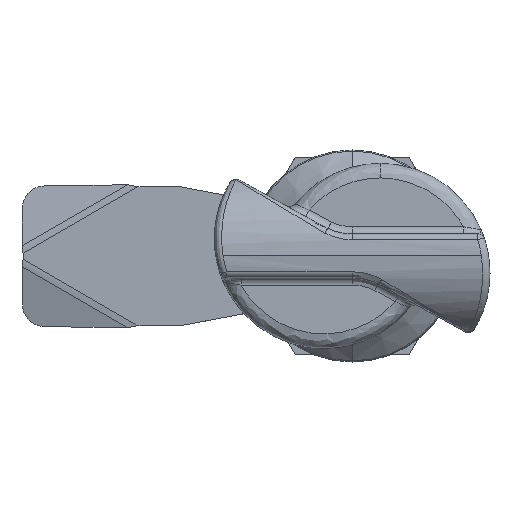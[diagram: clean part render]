
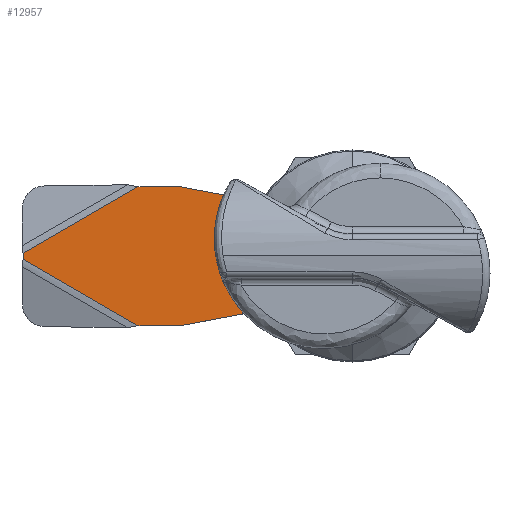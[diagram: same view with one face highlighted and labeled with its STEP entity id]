
A CAD part, top view. The second image highlights one B-rep face of the part: STEP entity #12957.
In plain terms, the highlighted planar face has unit normal (0, 0, 1).
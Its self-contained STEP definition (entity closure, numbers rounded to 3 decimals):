
#126 = DIRECTION ( 'NONE',  ( 0., -1., 0. ) ) ;
#141 = VERTEX_POINT ( 'NONE', #4286 ) ;
#182 = CARTESIAN_POINT ( 'NONE',  ( 29.295, 9.5, 3. ) ) ;
#248 = CIRCLE ( 'NONE', #2072, 8.5 ) ;
#284 = ORIENTED_EDGE ( 'NONE', *, *, #7848, .T. ) ;
#371 = EDGE_CURVE ( 'NONE', #8380, #987, #4857, .T. ) ;
#464 = ORIENTED_EDGE ( 'NONE', *, *, #1931, .T. ) ;
#688 = DIRECTION ( 'NONE',  ( 1., 0., 0. ) ) ;
#759 = FACE_BOUND ( 'NONE', #2884, .T. ) ;
#830 = CARTESIAN_POINT ( 'NONE',  ( 23.5, 9.5, 3. ) ) ;
#987 = VERTEX_POINT ( 'NONE', #9911 ) ;
#1129 = AXIS2_PLACEMENT_3D ( 'NONE', #7959, #7912, #7872 ) ;
#1231 = EDGE_LOOP ( 'NONE', ( #7009, #4759, #10121, #3452, #4829, #13849, #284, #464, #1614, #11706, #11364, #6966, #13770 ) ) ;
#1277 = CARTESIAN_POINT ( 'NONE',  ( 45., -0.433, 3. ) ) ;
#1300 = AXIS2_PLACEMENT_3D ( 'NONE', #3534, #2823, #4195 ) ;
#1413 = VERTEX_POINT ( 'NONE', #4600 ) ;
#1614 = ORIENTED_EDGE ( 'NONE', *, *, #9502, .T. ) ;
#1768 = DIRECTION ( 'NONE',  ( -1., 0., 0. ) ) ;
#1774 = CARTESIAN_POINT ( 'NONE',  ( 10.463, 7.043, 3. ) ) ;
#1782 = VECTOR ( 'NONE', #3214, 1000. ) ;
#1923 = VECTOR ( 'NONE', #5548, 1000. ) ;
#1931 = EDGE_CURVE ( 'NONE', #11809, #3948, #248, .T. ) ;
#2028 = CARTESIAN_POINT ( 'NONE',  ( 0., 0., 3. ) ) ;
#2072 = AXIS2_PLACEMENT_3D ( 'NONE', #2572, #2499, #2543 ) ;
#2186 = DIRECTION ( 'NONE',  ( -0.866, 0.5, 0. ) ) ;
#2499 = DIRECTION ( 'NONE',  ( 0., 0., 1. ) ) ;
#2543 = DIRECTION ( 'NONE',  ( 1., 0., 0. ) ) ;
#2556 = EDGE_CURVE ( 'NONE', #8041, #11493, #10054, .T. ) ;
#2572 = CARTESIAN_POINT ( 'NONE',  ( 0., 0., 3. ) ) ;
#2578 = VECTOR ( 'NONE', #7411, 1000. ) ;
#2621 = EDGE_CURVE ( 'NONE', #9183, #8488, #10029, .T. ) ;
#2737 = EDGE_CURVE ( 'NONE', #8314, #7477, #4735, .T. ) ;
#2823 = DIRECTION ( 'NONE',  ( 0., 0., -1. ) ) ;
#2884 = EDGE_LOOP ( 'NONE', ( #7242, #9962, #10377, #3717 ) ) ;
#3080 = DIRECTION ( 'NONE',  ( 1., 0., 0. ) ) ;
#3158 = EDGE_CURVE ( 'NONE', #8087, #8041, #6565, .T. ) ;
#3214 = DIRECTION ( 'NONE',  ( -0.987, 0.163, 0. ) ) ;
#3241 = CARTESIAN_POINT ( 'NONE',  ( 23.051, 13.105, 3. ) ) ;
#3287 = FACE_OUTER_BOUND ( 'NONE', #1231, .T. ) ;
#3415 = CIRCLE ( 'NONE', #6483, 8.5 ) ;
#3452 = ORIENTED_EDGE ( 'NONE', *, *, #3158, .T. ) ;
#3534 = CARTESIAN_POINT ( 'NONE',  ( 10., -9.5, 3. ) ) ;
#3717 = ORIENTED_EDGE ( 'NONE', *, *, #13270, .T. ) ;
#3782 = VECTOR ( 'NONE', #2186, 1000. ) ;
#3830 = CARTESIAN_POINT ( 'NONE',  ( 9.593, 7.033, 3. ) ) ;
#3948 = VERTEX_POINT ( 'NONE', #4501 ) ;
#4195 = DIRECTION ( 'NONE',  ( -1., 0., 0. ) ) ;
#4286 = CARTESIAN_POINT ( 'NONE',  ( 29.295, -9.5, 3. ) ) ;
#4333 = CARTESIAN_POINT ( 'NONE',  ( 42., -9.5, 3. ) ) ;
#4349 = CARTESIAN_POINT ( 'NONE',  ( 9.593, 7.033, 3. ) ) ;
#4355 = VECTOR ( 'NONE', #6671, 1000. ) ;
#4359 = EDGE_CURVE ( 'NONE', #8872, #11746, #9063, .T. ) ;
#4370 = CARTESIAN_POINT ( 'NONE',  ( 10.463, -7.043, 3. ) ) ;
#4382 = PLANE ( 'NONE',  #11718 ) ;
#4420 = VECTOR ( 'NONE', #9612, 1000. ) ;
#4449 = VECTOR ( 'NONE', #9240, 1000. ) ;
#4462 = LINE ( 'NONE', #3241, #3782 ) ;
#4501 = CARTESIAN_POINT ( 'NONE',  ( -8.5, 0., 3. ) ) ;
#4549 = CARTESIAN_POINT ( 'NONE',  ( -4.05, -4.05, 3. ) ) ;
#4600 = CARTESIAN_POINT ( 'NONE',  ( 4.05, -4.05, 3. ) ) ;
#4735 = LINE ( 'NONE', #7825, #4779 ) ;
#4759 = ORIENTED_EDGE ( 'NONE', *, *, #4359, .T. ) ;
#4779 = VECTOR ( 'NONE', #7857, 1000. ) ;
#4829 = ORIENTED_EDGE ( 'NONE', *, *, #2556, .T. ) ;
#4857 = LINE ( 'NONE', #4370, #4355 ) ;
#5373 = CARTESIAN_POINT ( 'NONE',  ( 10., -9.5, 3. ) ) ;
#5422 = DIRECTION ( 'NONE',  ( -1., 0., 0. ) ) ;
#5548 = DIRECTION ( 'NONE',  ( -1., 0., 0. ) ) ;
#5590 = EDGE_CURVE ( 'NONE', #7477, #8380, #9585, .T. ) ;
#6483 = AXIS2_PLACEMENT_3D ( 'NONE', #2028, #9426, #3080 ) ;
#6565 = LINE ( 'NONE', #12349, #6721 ) ;
#6633 = CIRCLE ( 'NONE', #1129, 2.5 ) ;
#6671 = DIRECTION ( 'NONE',  ( 0.983, -0.185, 0. ) ) ;
#6688 = LINE ( 'NONE', #4333, #2578 ) ;
#6721 = VECTOR ( 'NONE', #1768, 1000. ) ;
#6726 = VECTOR ( 'NONE', #688, 1000. ) ;
#6945 = CARTESIAN_POINT ( 'NONE',  ( -4.05, 4.05, 3. ) ) ;
#6956 = EDGE_CURVE ( 'NONE', #11493, #13853, #6633, .T. ) ;
#6966 = ORIENTED_EDGE ( 'NONE', *, *, #371, .T. ) ;
#7009 = ORIENTED_EDGE ( 'NONE', *, *, #12631, .F. ) ;
#7033 = CARTESIAN_POINT ( 'NONE',  ( 10., 4.05, 3. ) ) ;
#7242 = ORIENTED_EDGE ( 'NONE', *, *, #9348, .T. ) ;
#7411 = DIRECTION ( 'NONE',  ( 1., 0., 0. ) ) ;
#7477 = VERTEX_POINT ( 'NONE', #9011 ) ;
#7825 = CARTESIAN_POINT ( 'NONE',  ( 9.593, -7.033, 3. ) ) ;
#7848 = EDGE_CURVE ( 'NONE', #13853, #11809, #9019, .T. ) ;
#7857 = DIRECTION ( 'NONE',  ( 0.987, 0.163, 0. ) ) ;
#7862 = CARTESIAN_POINT ( 'NONE',  ( 4.05, 4.05, 3. ) ) ;
#7872 = DIRECTION ( 'NONE',  ( 1., 0., 0. ) ) ;
#7883 = CARTESIAN_POINT ( 'NONE',  ( 45., 6.5, 3. ) ) ;
#7912 = DIRECTION ( 'NONE',  ( 0., 0., -1. ) ) ;
#7959 = CARTESIAN_POINT ( 'NONE',  ( 10., 9.5, 3. ) ) ;
#8041 = VERTEX_POINT ( 'NONE', #830 ) ;
#8087 = VERTEX_POINT ( 'NONE', #182 ) ;
#8117 = DIRECTION ( 'NONE',  ( 0., 1., 0. ) ) ;
#8314 = VERTEX_POINT ( 'NONE', #12264 ) ;
#8380 = VERTEX_POINT ( 'NONE', #11790 ) ;
#8488 = VERTEX_POINT ( 'NONE', #6945 ) ;
#8680 = LINE ( 'NONE', #12005, #1923 ) ;
#8872 = VERTEX_POINT ( 'NONE', #1277 ) ;
#9011 = CARTESIAN_POINT ( 'NONE',  ( 9.593, -7.033, 3. ) ) ;
#9019 = LINE ( 'NONE', #3830, #1782 ) ;
#9063 = LINE ( 'NONE', #7883, #13928 ) ;
#9183 = VERTEX_POINT ( 'NONE', #4549 ) ;
#9193 = CARTESIAN_POINT ( 'NONE',  ( 4.05, -9.5, 3. ) ) ;
#9240 = DIRECTION ( 'NONE',  ( 0., 1., 0. ) ) ;
#9348 = EDGE_CURVE ( 'NONE', #13570, #1413, #9674, .T. ) ;
#9397 = CARTESIAN_POINT ( 'NONE',  ( -4.05, -9.5, 3. ) ) ;
#9426 = DIRECTION ( 'NONE',  ( 0., 0., 1. ) ) ;
#9502 = EDGE_CURVE ( 'NONE', #3948, #8314, #3415, .T. ) ;
#9585 = CIRCLE ( 'NONE', #1300, 2.5 ) ;
#9612 = DIRECTION ( 'NONE',  ( -0.983, -0.185, 0. ) ) ;
#9624 = EDGE_CURVE ( 'NONE', #987, #141, #6688, .T. ) ;
#9662 = CARTESIAN_POINT ( 'NONE',  ( 10.463, 7.043, 3. ) ) ;
#9674 = LINE ( 'NONE', #9193, #11952 ) ;
#9752 = CARTESIAN_POINT ( 'NONE',  ( 1.383, 8.387, 3. ) ) ;
#9911 = CARTESIAN_POINT ( 'NONE',  ( 23.5, -9.5, 3. ) ) ;
#9962 = ORIENTED_EDGE ( 'NONE', *, *, #11243, .T. ) ;
#10029 = LINE ( 'NONE', #9397, #4449 ) ;
#10054 = LINE ( 'NONE', #9662, #4420 ) ;
#10121 = ORIENTED_EDGE ( 'NONE', *, *, #13845, .T. ) ;
#10377 = ORIENTED_EDGE ( 'NONE', *, *, #2621, .T. ) ;
#11243 = EDGE_CURVE ( 'NONE', #1413, #9183, #8680, .T. ) ;
#11364 = ORIENTED_EDGE ( 'NONE', *, *, #5590, .T. ) ;
#11438 = CARTESIAN_POINT ( 'NONE',  ( 14.824, -17.855, 3. ) ) ;
#11493 = VERTEX_POINT ( 'NONE', #1774 ) ;
#11706 = ORIENTED_EDGE ( 'NONE', *, *, #2737, .T. ) ;
#11718 = AXIS2_PLACEMENT_3D ( 'NONE', #5373, #11864, #5422 ) ;
#11746 = VERTEX_POINT ( 'NONE', #11895 ) ;
#11790 = CARTESIAN_POINT ( 'NONE',  ( 10.463, -7.043, 3. ) ) ;
#11809 = VERTEX_POINT ( 'NONE', #9752 ) ;
#11864 = DIRECTION ( 'NONE',  ( 0., 0., -1. ) ) ;
#11895 = CARTESIAN_POINT ( 'NONE',  ( 45., 0.433, 3. ) ) ;
#11952 = VECTOR ( 'NONE', #126, 1000. ) ;
#12005 = CARTESIAN_POINT ( 'NONE',  ( 10., -4.05, 3. ) ) ;
#12264 = CARTESIAN_POINT ( 'NONE',  ( 1.383, -8.387, 3. ) ) ;
#12349 = CARTESIAN_POINT ( 'NONE',  ( 42., 9.5, 3. ) ) ;
#12540 = DIRECTION ( 'NONE',  ( -0.866, -0.5, 0. ) ) ;
#12631 = EDGE_CURVE ( 'NONE', #8872, #141, #13229, .T. ) ;
#12957 = ADVANCED_FACE ( 'NONE', ( #3287, #759 ), #4382, .F. ) ;
#13229 = LINE ( 'NONE', #11438, #13567 ) ;
#13270 = EDGE_CURVE ( 'NONE', #8488, #13570, #13903, .T. ) ;
#13567 = VECTOR ( 'NONE', #12540, 1000. ) ;
#13570 = VERTEX_POINT ( 'NONE', #7862 ) ;
#13770 = ORIENTED_EDGE ( 'NONE', *, *, #9624, .T. ) ;
#13845 = EDGE_CURVE ( 'NONE', #11746, #8087, #4462, .T. ) ;
#13849 = ORIENTED_EDGE ( 'NONE', *, *, #6956, .T. ) ;
#13853 = VERTEX_POINT ( 'NONE', #4349 ) ;
#13903 = LINE ( 'NONE', #7033, #6726 ) ;
#13928 = VECTOR ( 'NONE', #8117, 1000. ) ;
